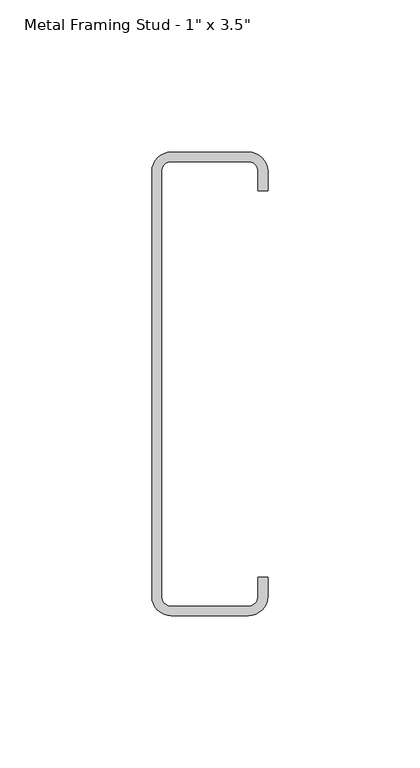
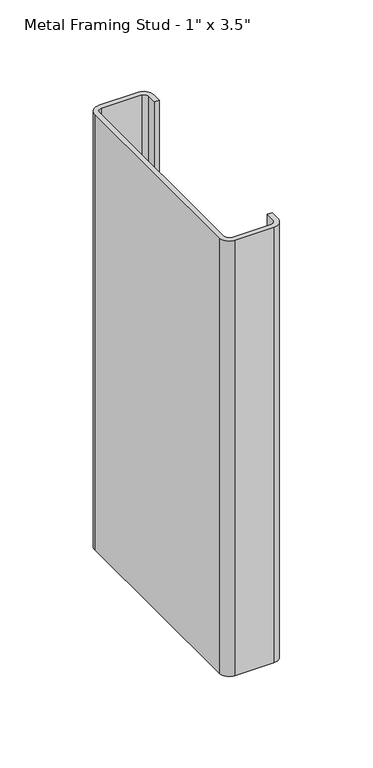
"""IFC4 building model written with IfcOpenShell, lengths in millimetres: proxy geometry."""

import ifcopenshell
import ifcopenshell.guid

model = None  # the IFC model being written
_history = None  # IfcOwnerHistory: only IFC2X3 demands one
_inside = {}  # id of a spatial element -> (the spatial element, [elements in it])
_under = {}  # id of a project, library or spatial element -> (it, [spatial elements below it])
_declared = {}  # id of a project -> (the project, [libraries it declares])
_typed = {}  # id of a type object -> (the type object, [elements of that type])
_made_of = {}  # id of a material, layer set ... -> (it, [elements and type objects made of it])


def new_model(schema):
    """Start an empty IFC model of exactly this schema.

    Asked for "IFC4X3", IfcOpenShell would pick the latest addendum, in which some entities
    have other attributes; the version numbers below select the first issue.
    IFC2X3 requires an IfcOwnerHistory on every rooted entity: one is made here for all.
    """
    global model, _history
    if schema == "IFC4X3":
        model = ifcopenshell.file(schema_version=(4, 3, 0, 0))
    else:
        model = ifcopenshell.file(schema=schema)
    _inside.clear()
    _under.clear()
    _declared.clear()
    _typed.clear()
    _made_of.clear()
    _history = None
    if model.schema == "IFC2X3":
        org = make("IfcOrganization", Name="unknown")
        user = make(
            "IfcPersonAndOrganization",
            ThePerson=make("IfcPerson", FamilyName="unknown"),
            TheOrganization=org,
        )
        app = make(
            "IfcApplication",
            ApplicationDeveloper=org,
            Version="unknown",
            ApplicationFullName="unknown",
            ApplicationIdentifier="unknown",
        )
        _history = make(
            "IfcOwnerHistory",
            OwningUser=user,
            OwningApplication=app,
            ChangeAction="ADDED",
            CreationDate=0,
        )
    return model


def make(cls, **values):
    """One entity of the class cls with the attributes given. An attribute that is None is left unset."""
    return model.create_entity(
        cls, **{name: value for name, value in values.items() if value is not None}
    )


def rooted(cls, **values):
    """An entity with a GlobalId (a new one), such as an element, a storey or a relation."""
    return make(cls, GlobalId=ifcopenshell.guid.new(), OwnerHistory=_history, **values)


def si_unit(unit_type, name, prefix=None):
    """IfcSIUnit, for example si_unit("LENGTHUNIT", "METRE", prefix="MILLI")."""
    return make("IfcSIUnit", UnitType=unit_type, Prefix=prefix, Name=name)


def assignment(units):
    """IfcUnitAssignment: the units of a project."""
    return None if units is None else make("IfcUnitAssignment", Units=units)


def point(xyz):
    """IfcCartesianPoint."""
    return None if xyz is None else make("IfcCartesianPoint", Coordinates=xyz)


def direction(xyz):
    """IfcDirection."""
    return None if xyz is None else make("IfcDirection", DirectionRatios=xyz)


def frame(location, z_axis=None, x_axis=None):
    """IfcAxis2Placement3D, a coordinate frame: its origin and axes. An axis left out is left unset."""
    return make(
        "IfcAxis2Placement3D",
        Location=point(location),
        Axis=direction(z_axis),
        RefDirection=direction(x_axis),
    )


def frame_2d(location, x_axis=None):
    """IfcAxis2Placement2D, a coordinate frame in the plane: its origin and x axis."""
    return make(
        "IfcAxis2Placement2D", Location=point(location), RefDirection=direction(x_axis)
    )


def origin():
    """The frame at (0, 0, 0) with its axes left unset."""
    return frame((0.0, 0.0, 0.0))


def origin_with_axes():
    """The frame at (0, 0, 0) with the z axis (0, 0, 1) and the x axis (1, 0, 0) written out."""
    return frame((0.0, 0.0, 0.0), z_axis=(0.0, 0.0, 1.0), x_axis=(1.0, 0.0, 0.0))


def place(relative_to, where):
    """IfcLocalPlacement: puts the frame where relative to a parent placement (None: the world)."""
    return make(
        "IfcLocalPlacement", PlacementRelTo=relative_to, RelativePlacement=where
    )


def context(
    kind, dimensions, precision=None, world=None, true_north=None, identifier=None
):
    """IfcGeometricRepresentationContext, for example the 3D "Model" context."""
    return make(
        "IfcGeometricRepresentationContext",
        ContextIdentifier=identifier,
        ContextType=kind,
        CoordinateSpaceDimension=dimensions,
        Precision=precision,
        WorldCoordinateSystem=world,
        TrueNorth=true_north,
    )


def project(units=None, contexts=None):
    """IfcProject with its units and contexts."""
    return rooted(
        "IfcProject",
        Name="project",
        RepresentationContexts=contexts,
        UnitsInContext=assignment(units),
    )


def spatial(cls, under=None, at=None, **own):
    """A site, building, storey or space (cls), placed at a placement, below another one or the project."""
    s = rooted(cls, ObjectPlacement=at, **own)
    if under is not None:
        _under.setdefault(under.id(), (under, []))[1].append(s)
    return s


def polyline(points):
    """IfcPolyline through the points."""
    return make("IfcPolyline", Points=[point(p) for p in points])


def circle_curve(where, radius):
    """IfcCircle in the frame where."""
    return make("IfcCircle", Position=where, Radius=radius)


def trimmed(basis, trim1, trim2, sense, master):
    """IfcTrimmedCurve: the piece of a basis curve between two trims."""
    return make(
        "IfcTrimmedCurve",
        BasisCurve=basis,
        Trim1=trim1,
        Trim2=trim2,
        SenseAgreement=sense,
        MasterRepresentation=master,
    )


def segment(curve, same_sense, transition):
    """IfcCompositeCurveSegment."""
    return make(
        "IfcCompositeCurveSegment",
        Transition=transition,
        SameSense=same_sense,
        ParentCurve=curve,
    )


def composite_curve(segments, self_intersect=None):
    """IfcCompositeCurve: segments joined end to end."""
    return make("IfcCompositeCurve", Segments=segments, SelfIntersect=self_intersect)


def outline(outer, holes=None, kind="AREA"):
    """IfcArbitraryClosedProfileDef: a profile drawn as a closed curve; with holes, ...WithVoids."""
    if holes is None:
        return make("IfcArbitraryClosedProfileDef", ProfileType=kind, OuterCurve=outer)
    return make(
        "IfcArbitraryProfileDefWithVoids",
        ProfileType=kind,
        OuterCurve=outer,
        InnerCurves=holes,
    )


def extrude(swept, where, along, depth):
    """IfcExtrudedAreaSolid: the profile swept, set in the frame where, extruded along a direction by depth."""
    return make(
        "IfcExtrudedAreaSolid",
        SweptArea=swept,
        Position=where,
        ExtrudedDirection=direction(along),
        Depth=depth,
    )


def shape(context_of_items, identifier, shape_type, items):
    """IfcShapeRepresentation: the items that make up one representation, for example the "Body"."""
    return make(
        "IfcShapeRepresentation",
        ContextOfItems=context_of_items,
        RepresentationIdentifier=identifier,
        RepresentationType=shape_type,
        Items=items,
    )


def source(mapping_origin, context_of_items, identifier, shape_type, items):
    """IfcRepresentationMap: a shape defined once, which mapped items show again and again."""
    return make(
        "IfcRepresentationMap",
        MappingOrigin=mapping_origin,
        MappedRepresentation=shape(context_of_items, identifier, shape_type, items),
    )


def transform(
    local_origin,
    x_axis=None,
    y_axis=None,
    z_axis=None,
    scale=None,
    scale2=None,
    scale3=None,
    uniform=True,
):
    """IfcCartesianTransformationOperator3D, or its non-uniform kind. x_axis, y_axis, z_axis: its Axis1, 2, 3."""
    if uniform:
        return make(
            "IfcCartesianTransformationOperator3D",
            Axis1=direction(x_axis),
            Axis2=direction(y_axis),
            LocalOrigin=point(local_origin),
            Scale=scale,
            Axis3=direction(z_axis),
        )
    return make(
        "IfcCartesianTransformationOperator3DnonUniform",
        Axis1=direction(x_axis),
        Axis2=direction(y_axis),
        LocalOrigin=point(local_origin),
        Scale=scale,
        Axis3=direction(z_axis),
        Scale2=scale2,
        Scale3=scale3,
    )


def mapped(mapping_source, mapping_target):
    """IfcMappedItem: shows the shape of a source again, moved by a transform."""
    return make(
        "IfcMappedItem", MappingSource=mapping_source, MappingTarget=mapping_target
    )


def made_of(thing, what):
    """Note that an element or type object is made of a material, layer set ...; save() writes the relation."""
    if what is not None:
        _made_of.setdefault(what.id(), (what, []))[1].append(thing)
    return thing


def element(
    cls,
    number,
    at=None,
    inside=None,
    cuts=None,
    type_object=None,
    material=None,
    context=None,
    identifier="Body",
    shape_type=None,
    held_by="IfcProductDefinitionShape",
    body=None,
    shapes=None,
    **own,
):
    """One element of the class cls, such as IfcWall. Its Tag is "e" and its number.

    at: its placement. inside: the storey or other place that contains it. cuts: it is an
    opening in that element (IfcRelVoidsElement). A single representation is given by context,
    identifier, shape_type and body (its items); several are given by shapes. held_by: the class
    of the entity that holds the representations. save() writes the other relations.
    """
    e = rooted(cls, Tag="e%d" % number, ObjectPlacement=at, **own)
    if body is not None:
        shapes = [shape(context, identifier, shape_type, body)]
    if shapes is not None:
        e.Representation = make(held_by, Representations=shapes)
    if inside is not None:
        _inside.setdefault(inside.id(), (inside, []))[1].append(e)
    if cuts is not None:
        rooted(
            "IfcRelVoidsElement", RelatingBuildingElement=cuts, RelatedOpeningElement=e
        )
    if type_object is not None:
        _typed.setdefault(type_object.id(), (type_object, []))[1].append(e)
    return made_of(e, material)


def aggregate(whole, parts):
    """IfcRelAggregates: a whole, such as a stair, and the parts it consists of."""
    return rooted("IfcRelAggregates", RelatingObject=whole, RelatedObjects=parts)


def save(model, path):
    """Write the relations noted so far, then the file.

    IfcRelAggregates (storeys below a building ...), IfcRelContainedInSpatialStructure (elements
    in a storey), IfcRelDefinesByType, IfcRelAssociatesMaterial and IfcRelDeclares: one each for
    every whole, place, type object, material and project.
    """
    for whole, parts in _under.values():
        aggregate(whole, parts)
    for where, things in _inside.values():
        rooted(
            "IfcRelContainedInSpatialStructure",
            RelatedElements=things,
            RelatingStructure=where,
        )
    for kind, things in _typed.values():
        rooted("IfcRelDefinesByType", RelatedObjects=things, RelatingType=kind)
    for what, things in _made_of.values():
        rooted("IfcRelAssociatesMaterial", RelatedObjects=things, RelatingMaterial=what)
    for by, libraries in _declared.values():
        rooted("IfcRelDeclares", RelatingContext=by, RelatedDefinitions=libraries)
    model.write(path)


def proxy_6f3203ff(model_context):
    return source(origin(), model_context, "Body", "SweptSolid", [
        extrude(outline(composite_curve([segment(polyline([(19.05, 63.5), (15.875, 63.5), (15.875, 70.2679713)]), True, "CONTINUOUS"), segment(trimmed(circle_curve(frame_2d((12.7, 69.85)), 3.2023936), [point((15.875, 70.2679713))], [point((13.1179713, 73.025))], True, "CARTESIAN"), True, "CONTINUOUS"), segment(polyline([(13.1179713, 73.025), (-13.1179713, 73.025)]), True, "CONTINUOUS"), segment(trimmed(circle_curve(frame_2d((-12.7, 69.85)), 3.2023936), [point((-13.1179713, 73.025))], [point((-15.875, 70.2679713))], True, "CARTESIAN"), True, "CONTINUOUS"), segment(polyline([(-15.875, 70.2679713), (-15.875, -70.2679713)]), True, "CONTINUOUS"), segment(trimmed(circle_curve(frame_2d((-12.7, -69.85)), 3.2023936), [point((-15.875, -70.2679713))], [point((-13.1179713, -73.025))], True, "CARTESIAN"), True, "CONTINUOUS"), segment(polyline([(-13.1179713, -73.025), (13.1179713, -73.025)]), True, "CONTINUOUS"), segment(trimmed(circle_curve(frame_2d((12.7, -69.85)), 3.2023936), [point((13.1179713, -73.025))], [point((15.875, -70.2679713))], True, "CARTESIAN"), True, "CONTINUOUS"), segment(polyline([(15.875, -70.2679713), (15.875, -63.5), (19.05, -63.5), (19.05, -69.85)]), True, "CONTINUOUS"), segment(trimmed(circle_curve(frame_2d((12.7, -69.85)), 6.35), [point((19.05, -69.85))], [point((12.7, -76.2))], False, "CARTESIAN"), True, "CONTINUOUS"), segment(polyline([(12.7, -76.2), (-12.7, -76.2)]), True, "CONTINUOUS"), segment(trimmed(circle_curve(frame_2d((-12.7, -69.85)), 6.35), [point((-12.7, -76.2))], [point((-19.05, -69.85))], False, "CARTESIAN"), True, "CONTINUOUS"), segment(polyline([(-19.05, -69.85), (-19.05, 69.85)]), True, "CONTINUOUS"), segment(trimmed(circle_curve(frame_2d((-12.7, 69.85)), 6.35), [point((-19.05, 69.85))], [point((-12.7, 76.2))], False, "CARTESIAN"), True, "CONTINUOUS"), segment(polyline([(-12.7, 76.2), (12.7, 76.2)]), True, "CONTINUOUS"), segment(trimmed(circle_curve(frame_2d((12.7, 69.85)), 6.35), [point((12.7, 76.2))], [point((19.05, 69.85))], False, "CARTESIAN"), True, "CONTINUOUS"), segment(polyline([(19.05, 69.85), (19.05, 63.5)]), True, "CONTINUOUS")], self_intersect=False)), origin_with_axes(), (0.0, 0.0, 1.0), 298.45),
    ])


if __name__ == "__main__":
    model = new_model("IFC4")
    model_context = context("Model", 3, world=origin())
    ifc_project = project(units=[si_unit("LENGTHUNIT", "METRE", prefix="MILLI")], contexts=[model_context])
    site = spatial("IfcSite", under=ifc_project)
    building = spatial("IfcBuilding", under=site)
    placement = place(None, origin())
    proxy_shape = proxy_6f3203ff(model_context)
    element("IfcBuildingElementProxy", 1, Name="CRAi Generic Model Metal Stud : Metal Framing Stud - 1\" x 3.5\"", ObjectType="CRAi Generic Model Metal Stud : Metal Framing Stud - 1\" x 3.5\"", at=placement, inside=building, context=model_context, shape_type="MappedRepresentation", body=[
        mapped(proxy_shape, transform((0.0, 0.0, 0.0), x_axis=(1.0, 0.0, 0.0), y_axis=(0.0, 1.0, 0.0), z_axis=(0.0, 0.0, 1.0))),
    ])
    save(model, "model.ifc")
